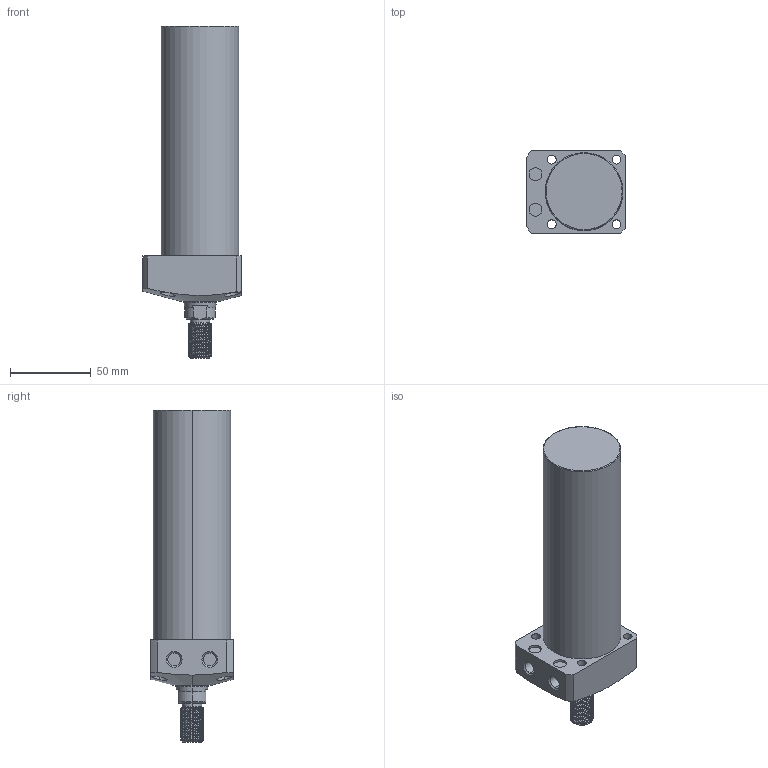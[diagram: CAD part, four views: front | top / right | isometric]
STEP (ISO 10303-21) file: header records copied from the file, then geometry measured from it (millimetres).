
FILE_DESCRIPTION (( 'STEP AP203' ), '1' );
FILE_NAME ('CLL-048CT-115.STEP', '2020-01-08T10:13:20', ( '' ), ( '' ), 'SwSTEP 2.0', 'SolidWorks 2015', '' );
FILE_SCHEMA (( 'CONFIG_CONTROL_DESIGN' ));
Length unit declared in the file: millimetre
Products named in the file (1): CLL-048CT-115
Bounding box: 61 x 51 x 205 mm (x, y, z)
Volume: 335967.8 mm3; surface area: 37428.7 mm2
Topology: 1 solids, 1 shells, 120 faces, 306 edges, 199 vertices
Faces by surface type: cylinder 77, plane 23, cone 16, torus 2, bspline 2
Entity records: 6428 total; most frequent: CARTESIAN_POINT 3667, ORIENTED_EDGE 612, DIRECTION 514, EDGE_CURVE 306, AXIS2_PLACEMENT_3D 204, VERTEX_POINT 199, EDGE_LOOP 139, ADVANCED_FACE 120
